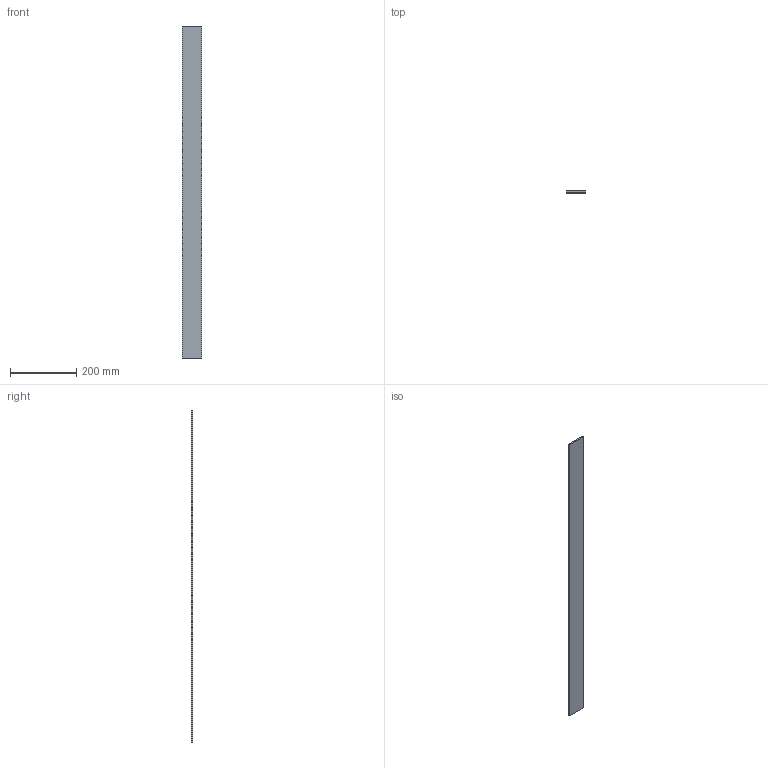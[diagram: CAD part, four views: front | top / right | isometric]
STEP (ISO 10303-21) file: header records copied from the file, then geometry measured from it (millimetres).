
FILE_DESCRIPTION(/* description */ (''),/* implementation_level */ '2;1');
FILE_NAME(/* name */ 'C:\Users\AMS43\Documents\Inventor\AMS\misumi\\X2\30B930DA30B730E330EB30D530EC30FC30E0\X0\_ipt\\X2\30B930DA30B730E330EB30D530EC30FC30E0\X0\_stp\AFFB-06005.ipt.stp',/* time_stamp */ '2016-10-06T11:40:02+09:00',/* author */ ('AMS43'),/* organization */ (''),/* preprocessor_version */ 'ST-DEVELOPER v15.2',/* originating_system */ 'Autodesk Inventor 2014',/* authorisation */ '');
FILE_SCHEMA (('AUTOMOTIVE_DESIGN { 1 0 10303 214 3 1 1 }'));
Length unit declared in the file: metre
Products named in the file (1): AFFB-06005
Bounding box: 60 x 5 x 1000 mm (x, y, z)
Volume: 300000 mm3; surface area: 130600 mm2
Topology: 1 solids, 1 shells, 6 faces, 12 edges, 8 vertices
Faces by surface type: plane 6
Entity records: 187 total; most frequent: CARTESIAN_POINT 27, DIRECTION 26, ORIENTED_EDGE 24, LINE 12, VECTOR 12, EDGE_CURVE 12, VERTEX_POINT 8, AXIS2_PLACEMENT_3D 7
